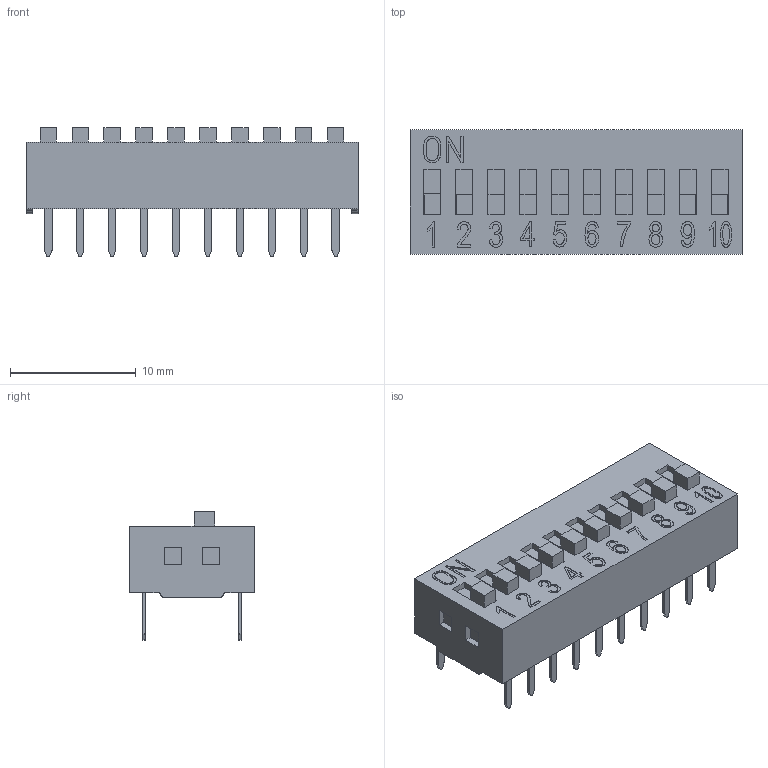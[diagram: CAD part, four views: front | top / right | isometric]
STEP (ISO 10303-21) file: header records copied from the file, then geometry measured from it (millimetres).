
FILE_DESCRIPTION(('FreeCAD Model'),'2;1');
FILE_NAME('C:/Users/Metaltex-99/Desktop/DS-10.stp','2020-08-11T08:54:02' ,('Engenharia Metaltex'),('Metaltex'), 'Open CASCADE STEP processor 7.3','FreeCAD','Unknown');
FILE_SCHEMA(('AUTOMOTIVE_DESIGN { 1 0 10303 214 1 1 1 1 }'));
Length unit declared in the file: millimetre
Products named in the file (1): DS-10
Bounding box: 26.4 x 9.9 x 10.25 mm (x, y, z)
Surface area: 2812 mm2 (no closed solid volume)
Topology: 0 solids, 32 shells, 753 faces, 1917 edges, 1278 vertices
Faces by surface type: plane 567, bspline 98, cylinder 88
Entity records: 48642 total; most frequent: CARTESIAN_POINT 10777, DIRECTION 6483, LINE 4811, VECTOR 4811, ORIENTED_EDGE 3834, PCURVE 3834, DEFINITIONAL_REPRESENTATION 3834, EDGE_CURVE 1917
